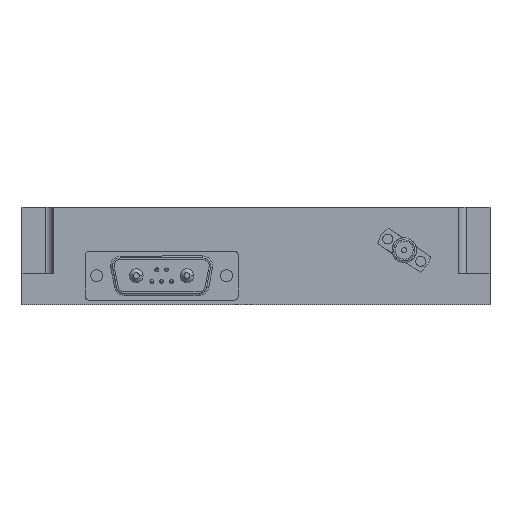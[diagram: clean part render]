
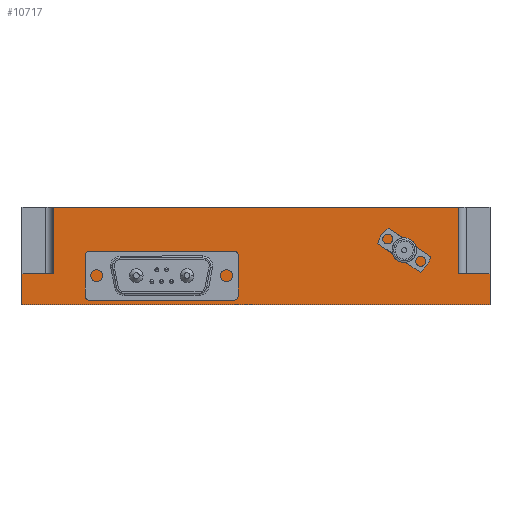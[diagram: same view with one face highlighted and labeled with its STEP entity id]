
A CAD part, left-side view. The second image highlights one B-rep face of the part: STEP entity #10717.
In plain terms, the highlighted planar face has unit normal (-1, 0, 0).
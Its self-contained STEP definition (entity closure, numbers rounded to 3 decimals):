
#158 = EDGE_LOOP ( 'NONE', ( #9823, #10761, #14704, #10032, #599, #24855, #15680, #23592 ) ) ;
#599 = ORIENTED_EDGE ( 'NONE', *, *, #18887, .F. ) ;
#676 = LINE ( 'NONE', #4258, #13418 ) ;
#737 = VERTEX_POINT ( 'NONE', #14140 ) ;
#1894 = LINE ( 'NONE', #17528, #9427 ) ;
#1983 = DIRECTION ( 'NONE',  ( 0., 0., -1. ) ) ;
#3489 = CARTESIAN_POINT ( 'NONE',  ( 0., 8., 25. ) ) ;
#3518 = LINE ( 'NONE', #21210, #17193 ) ;
#3653 = DIRECTION ( 'NONE',  ( 0., 0., -1. ) ) ;
#3884 = LINE ( 'NONE', #3489, #13170 ) ;
#4190 = EDGE_CURVE ( 'NONE', #24181, #24604, #1894, .T. ) ;
#4258 = CARTESIAN_POINT ( 'NONE',  ( 0., 0., 8. ) ) ;
#4789 = EDGE_CURVE ( 'NONE', #6755, #737, #15235, .T. ) ;
#4990 = DIRECTION ( 'NONE',  ( 0., 0., -1. ) ) ;
#5116 = LINE ( 'NONE', #7306, #9142 ) ;
#5127 = PLANE ( 'NONE',  #7762 ) ;
#5283 = EDGE_CURVE ( 'NONE', #7257, #6755, #3884, .T. ) ;
#5447 = CARTESIAN_POINT ( 'NONE',  ( 0., 0., 8. ) ) ;
#5695 = LINE ( 'NONE', #13551, #16120 ) ;
#6643 = CARTESIAN_POINT ( 'NONE',  ( 0., 8., 25. ) ) ;
#6755 = VERTEX_POINT ( 'NONE', #18481 ) ;
#7257 = VERTEX_POINT ( 'NONE', #6643 ) ;
#7306 = CARTESIAN_POINT ( 'NONE',  ( 0., 112., 25. ) ) ;
#7762 = AXIS2_PLACEMENT_3D ( 'NONE', #11174, #18981, #20751 ) ;
#8124 = EDGE_CURVE ( 'NONE', #737, #24604, #3518, .T. ) ;
#8391 = VERTEX_POINT ( 'NONE', #16987 ) ;
#9142 = VECTOR ( 'NONE', #4990, 1000. ) ;
#9427 = VECTOR ( 'NONE', #14979, 1000. ) ;
#9527 = VERTEX_POINT ( 'NONE', #20204 ) ;
#9717 = VECTOR ( 'NONE', #24382, 1000. ) ;
#9823 = ORIENTED_EDGE ( 'NONE', *, *, #4789, .F. ) ;
#10032 = ORIENTED_EDGE ( 'NONE', *, *, #25115, .T. ) ;
#10717 = ADVANCED_FACE ( 'NONE', ( #13105 ), #5127, .F. ) ;
#10761 = ORIENTED_EDGE ( 'NONE', *, *, #5283, .F. ) ;
#11174 = CARTESIAN_POINT ( 'NONE',  ( 0., 0., 8. ) ) ;
#12742 = CARTESIAN_POINT ( 'NONE',  ( 0., 0., 25. ) ) ;
#13105 = FACE_OUTER_BOUND ( 'NONE', #158, .T. ) ;
#13170 = VECTOR ( 'NONE', #1983, 1000. ) ;
#13282 = CARTESIAN_POINT ( 'NONE',  ( 0., 0., 0. ) ) ;
#13418 = VECTOR ( 'NONE', #18338, 1000. ) ;
#13551 = CARTESIAN_POINT ( 'NONE',  ( 0., 120., 8. ) ) ;
#14140 = CARTESIAN_POINT ( 'NONE',  ( 0., 0., 8. ) ) ;
#14704 = ORIENTED_EDGE ( 'NONE', *, *, #18363, .T. ) ;
#14871 = VERTEX_POINT ( 'NONE', #23370 ) ;
#14979 = DIRECTION ( 'NONE',  ( 0., -1., 0. ) ) ;
#15235 = LINE ( 'NONE', #5447, #17666 ) ;
#15680 = ORIENTED_EDGE ( 'NONE', *, *, #4190, .T. ) ;
#16120 = VECTOR ( 'NONE', #21337, 1000. ) ;
#16987 = CARTESIAN_POINT ( 'NONE',  ( 0., 112., 25. ) ) ;
#17193 = VECTOR ( 'NONE', #3653, 1000. ) ;
#17528 = CARTESIAN_POINT ( 'NONE',  ( 0., 0., 0. ) ) ;
#17666 = VECTOR ( 'NONE', #22286, 1000. ) ;
#18338 = DIRECTION ( 'NONE',  ( 0., -1., 0. ) ) ;
#18363 = EDGE_CURVE ( 'NONE', #7257, #8391, #22471, .T. ) ;
#18481 = CARTESIAN_POINT ( 'NONE',  ( 0., 8., 8. ) ) ;
#18887 = EDGE_CURVE ( 'NONE', #14871, #9527, #676, .T. ) ;
#18981 = DIRECTION ( 'NONE',  ( 1., 0., 0. ) ) ;
#20204 = CARTESIAN_POINT ( 'NONE',  ( 0., 112., 8. ) ) ;
#20751 = DIRECTION ( 'NONE',  ( 0., 1., 0. ) ) ;
#21210 = CARTESIAN_POINT ( 'NONE',  ( 0., 0., 8. ) ) ;
#21337 = DIRECTION ( 'NONE',  ( 0., 0., -1. ) ) ;
#22286 = DIRECTION ( 'NONE',  ( 0., -1., 0. ) ) ;
#22471 = LINE ( 'NONE', #12742, #9717 ) ;
#23370 = CARTESIAN_POINT ( 'NONE',  ( 0., 120., 8. ) ) ;
#23592 = ORIENTED_EDGE ( 'NONE', *, *, #8124, .F. ) ;
#24181 = VERTEX_POINT ( 'NONE', #25219 ) ;
#24382 = DIRECTION ( 'NONE',  ( 0., 1., 0. ) ) ;
#24604 = VERTEX_POINT ( 'NONE', #13282 ) ;
#24849 = EDGE_CURVE ( 'NONE', #14871, #24181, #5695, .T. ) ;
#24855 = ORIENTED_EDGE ( 'NONE', *, *, #24849, .T. ) ;
#25115 = EDGE_CURVE ( 'NONE', #8391, #9527, #5116, .T. ) ;
#25219 = CARTESIAN_POINT ( 'NONE',  ( 0., 120., 0. ) ) ;
